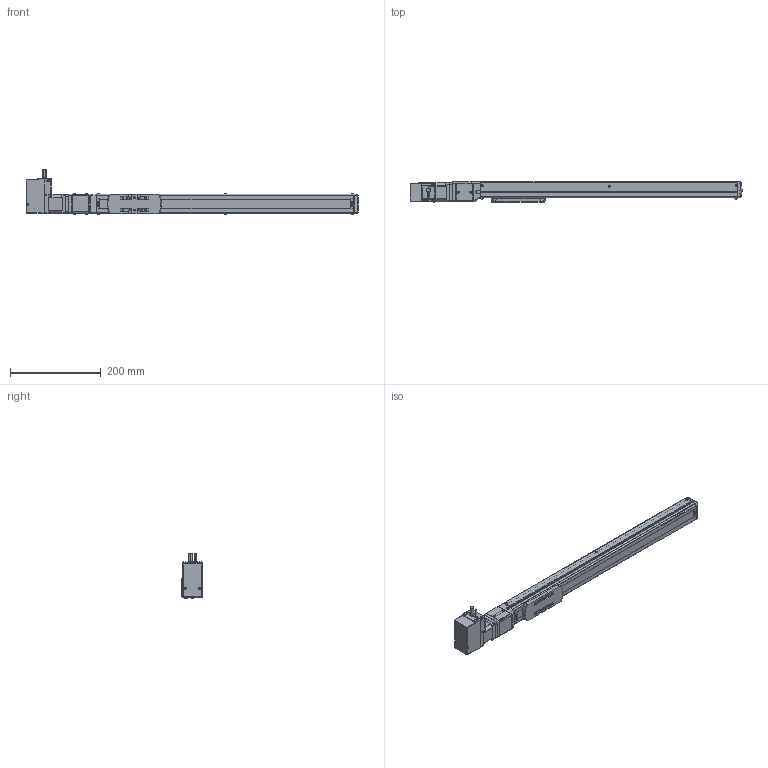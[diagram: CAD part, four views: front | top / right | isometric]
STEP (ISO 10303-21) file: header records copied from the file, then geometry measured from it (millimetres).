
FILE_DESCRIPTION(('FreeCAD Model'),'2;1');
FILE_NAME('Open CASCADE Shape Model','2023-08-01T17:22:16',('Author'),( ''),'Open CASCADE STEP processor 7.5','FreeCAD','Unknown');
FILE_SCHEMA(('AUTOMOTIVE_DESIGN { 1 0 10303 214 1 1 1 1 }'));
Length unit declared in the file: millimetre
Products named in the file (20): SCKSF4_020_400_S; Shapes; Shapes001; Shapes002; Shapes003; Shapes004; Shapes005; Shapes006; Shapes007; Shapes008; Shapes009; Shapes010; Shapes011; Shapes012; Shapes013; KSF4-10-0400-0-AR(0); KSF4---(Cover); KSF4-AR---(Motor bracket); KSF4-10-0400---(slider); KSF4-10-0400-0-AR-(04000ARNo0)---(body)
Assembly tree (19 placements, depth 3):
  SCKSF4_020_400_S
    Shapes
    Shapes001
    Shapes002
    Shapes003
    Shapes004
    Shapes005
    Shapes006
    Shapes007
    Shapes008
    Shapes009
    Shapes010
    Shapes011
    Shapes012
    Shapes013
    KSF4-10-0400-0-AR(0)
      KSF4---(Cover)
      KSF4-AR---(Motor bracket)
      KSF4-10-0400---(slider)
      KSF4-10-0400-0-AR-(04000ARNo0)---(body)
Bounding box: 732 x 46 x 98.19 mm (x, y, z)
Volume: 1191113.9 mm3; surface area: 230594 mm2
Topology: 18 solids, 18 shells, 1245 faces, 3236 edges, 2110 vertices
Faces by surface type: plane 679, cylinder 420, cone 66, torus 51, bspline 19, revolution 6, sphere 4
Full cylindrical faces by diameter (mm): 2.113 x8, 2.459 x3, 3 x6, 3.242 x4, 3.4 x12, 4 x3, 4.5 x2, 5.5 x8, 6 x1, 6.5 x14, 8 x1, 12 x1, 22 x1, 28 x1, 30 x2
Entity records: 91822 total; most frequent: CARTESIAN_POINT 26556, DIRECTION 12263, LINE 7279, VECTOR 7279, ORIENTED_EDGE 6436, PCURVE 6436, DEFINITIONAL_REPRESENTATION 6436, EDGE_CURVE 3218
